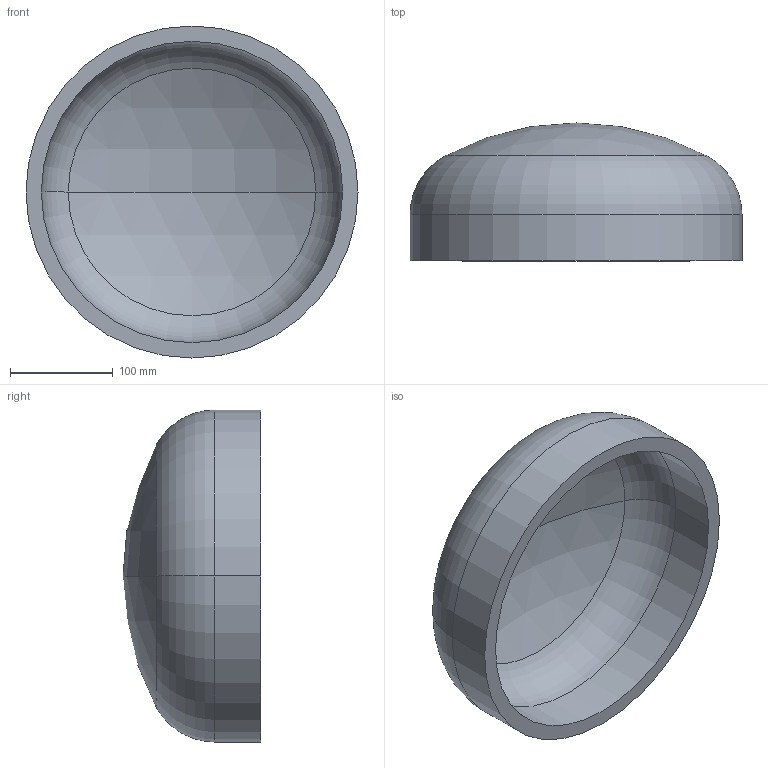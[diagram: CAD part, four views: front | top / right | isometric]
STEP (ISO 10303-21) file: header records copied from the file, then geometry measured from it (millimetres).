
FILE_DESCRIPTION (( 'STEP AP203' ), '1' );
FILE_NAME ('DIN 28013 Korbbogenform_-_Boden DIN 28013 - 323,9 x 45 - I - s=15.step', '2016-07-01T07:44:27', ( '' ), ( '' ), 'SwSTEP 2.0', 'SolidWorks 2013', '' );
FILE_SCHEMA (( 'CONFIG_CONTROL_DESIGN' ));
Length unit declared in the file: millimetre
Products named in the file (1): DIN 28013 Korbbogenform_-_Boden DIN 28013 - 323,9 x 45 - I - s=15
Bounding box: 323.9 x 134.51 x 323.9 mm (x, y, z)
Volume: 2270401.5 mm3; surface area: 317747.9 mm2
Topology: 1 solids, 1 shells, 13 faces, 24 edges, 14 vertices
Faces by surface type: torus 4, cylinder 4, sphere 4, plane 1
Entity records: 407 total; most frequent: DIRECTION 72, CARTESIAN_POINT 52, ORIENTED_EDGE 48, AXIS2_PLACEMENT_3D 34, EDGE_CURVE 24, CIRCLE 20, EDGE_LOOP 14, VERTEX_POINT 14
